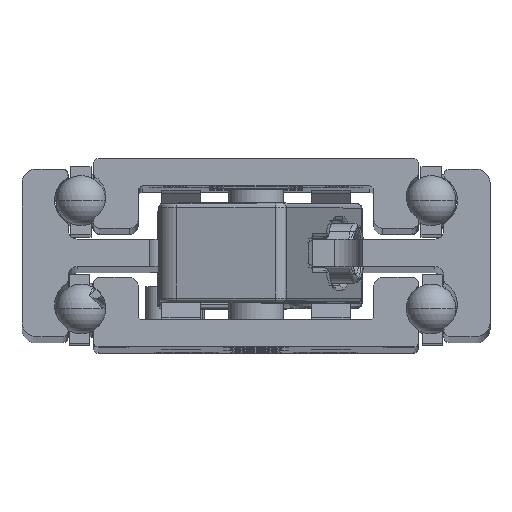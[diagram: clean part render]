
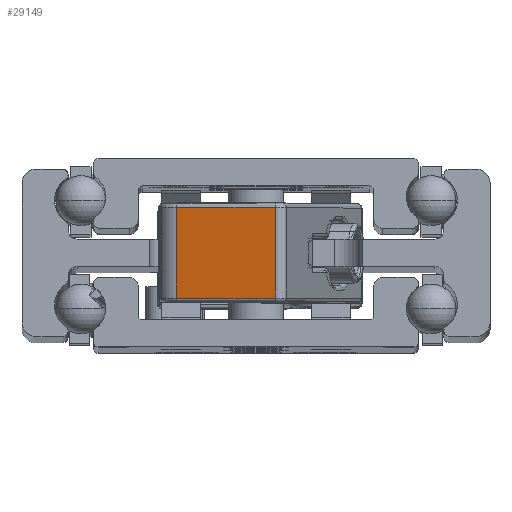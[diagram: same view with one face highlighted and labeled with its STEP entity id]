
A CAD part, top view. The second image highlights one B-rep face of the part: STEP entity #29149.
In plain terms, the highlighted planar face has unit normal (-0.225, 0, 0.974) as drawn and (-1, 0, 0) by its records, which use the part's own axes.
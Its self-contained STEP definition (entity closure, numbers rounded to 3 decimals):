
#158 = LINE ( 'NONE', #11105, #18883 ) ;
#742 = EDGE_CURVE ( 'NONE', #17921, #8174, #4812, .T. ) ;
#2852 = EDGE_LOOP ( 'NONE', ( #16993, #28012, #4680, #16963 ) ) ;
#4680 = ORIENTED_EDGE ( 'NONE', *, *, #6794, .T. ) ;
#4812 = LINE ( 'NONE', #27257, #17181 ) ;
#5108 = CARTESIAN_POINT ( 'NONE',  ( -37., -4., 5.4 ) ) ;
#5359 = LINE ( 'NONE', #20177, #15071 ) ;
#6735 = DIRECTION ( 'NONE',  ( 0., -1., 0. ) ) ;
#6794 = EDGE_CURVE ( 'NONE', #16456, #17921, #158, .T. ) ;
#6897 = VECTOR ( 'NONE', #23762, 1000. ) ;
#8174 = VERTEX_POINT ( 'NONE', #8642 ) ;
#8642 = CARTESIAN_POINT ( 'NONE',  ( -37., 8., 4.9 ) ) ;
#9858 = CARTESIAN_POINT ( 'NONE',  ( -37., -3., 4.9 ) ) ;
#9990 = PLANE ( 'NONE',  #17828 ) ;
#11105 = CARTESIAN_POINT ( 'NONE',  ( -37., -3., 5.4 ) ) ;
#13108 = CARTESIAN_POINT ( 'NONE',  ( -37., 8., 5.4 ) ) ;
#15071 = VECTOR ( 'NONE', #6735, 1000. ) ;
#15146 = VERTEX_POINT ( 'NONE', #23844 ) ;
#16193 = DIRECTION ( 'NONE',  ( 0., 1., 0. ) ) ;
#16456 = VERTEX_POINT ( 'NONE', #16556 ) ;
#16556 = CARTESIAN_POINT ( 'NONE',  ( -37., -3., -4.9 ) ) ;
#16793 = DIRECTION ( 'NONE',  ( 1., 0., 0. ) ) ;
#16963 = ORIENTED_EDGE ( 'NONE', *, *, #742, .T. ) ;
#16993 = ORIENTED_EDGE ( 'NONE', *, *, #22317, .T. ) ;
#17174 = EDGE_CURVE ( 'NONE', #15146, #16456, #5359, .T. ) ;
#17181 = VECTOR ( 'NONE', #16193, 1000. ) ;
#17828 = AXIS2_PLACEMENT_3D ( 'NONE', #5108, #16793, #19006 ) ;
#17921 = VERTEX_POINT ( 'NONE', #9858 ) ;
#18883 = VECTOR ( 'NONE', #24983, 1000. ) ;
#19006 = DIRECTION ( 'NONE',  ( 0., 1., 0. ) ) ;
#20177 = CARTESIAN_POINT ( 'NONE',  ( -37., -4., -4.9 ) ) ;
#22317 = EDGE_CURVE ( 'NONE', #8174, #15146, #26117, .T. ) ;
#23762 = DIRECTION ( 'NONE',  ( 0., 0., -1. ) ) ;
#23844 = CARTESIAN_POINT ( 'NONE',  ( -37., 8., -4.9 ) ) ;
#24983 = DIRECTION ( 'NONE',  ( 0., 0., 1. ) ) ;
#25345 = FACE_OUTER_BOUND ( 'NONE', #2852, .T. ) ;
#26117 = LINE ( 'NONE', #13108, #6897 ) ;
#27257 = CARTESIAN_POINT ( 'NONE',  ( -37., 8., 4.9 ) ) ;
#28012 = ORIENTED_EDGE ( 'NONE', *, *, #17174, .T. ) ;
#29149 = ADVANCED_FACE ( 'NONE', ( #25345 ), #9990, .F. ) ;
